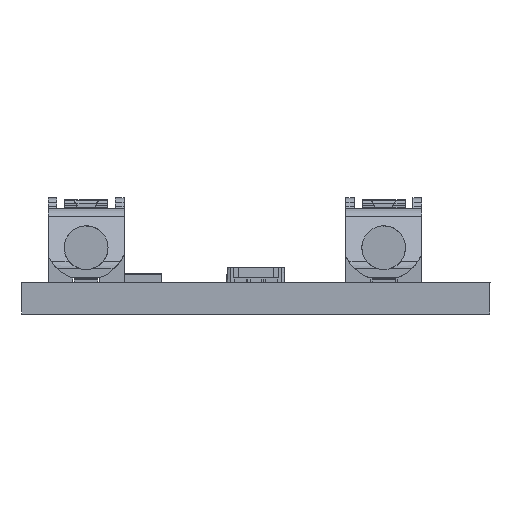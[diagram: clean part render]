
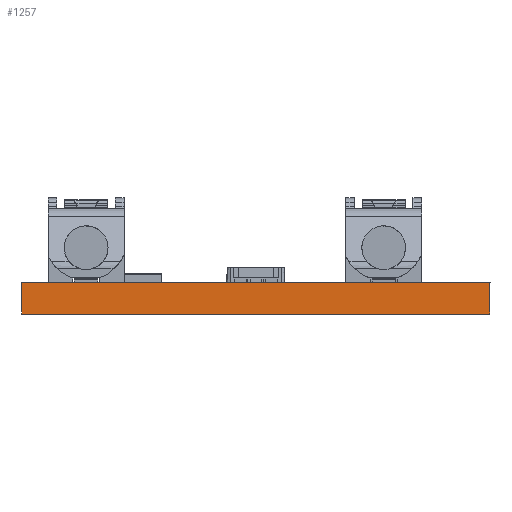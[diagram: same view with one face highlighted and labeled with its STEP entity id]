
A CAD part, left-side view. The second image highlights one B-rep face of the part: STEP entity #1257.
In plain terms, the highlighted planar face has unit normal (-1, 0, 0).
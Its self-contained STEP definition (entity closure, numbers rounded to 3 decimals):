
#132 = EDGE_LOOP ( 'NONE', ( #10253, #3526, #10152, #174 ) ) ;
#174 = ORIENTED_EDGE ( 'NONE', *, *, #8338, .T. ) ;
#559 = FACE_OUTER_BOUND ( 'NONE', #132, .T. ) ;
#592 = CARTESIAN_POINT ( 'NONE',  ( 0., 0., 0. ) ) ;
#795 = VECTOR ( 'NONE', #3783, 1000. ) ;
#1196 = VERTEX_POINT ( 'NONE', #1562 ) ;
#1257 = ADVANCED_FACE ( 'NONE', ( #559 ), #10656, .F. ) ;
#1438 = CARTESIAN_POINT ( 'NONE',  ( 0., 24., 1.6 ) ) ;
#1562 = CARTESIAN_POINT ( 'NONE',  ( 0., 0., 0. ) ) ;
#3081 = CARTESIAN_POINT ( 'NONE',  ( 0., 0., 1.6 ) ) ;
#3353 = CARTESIAN_POINT ( 'NONE',  ( 0., 0., 1.6 ) ) ;
#3441 = DIRECTION ( 'NONE',  ( 1., 0., 0. ) ) ;
#3526 = ORIENTED_EDGE ( 'NONE', *, *, #11087, .F. ) ;
#3701 = CARTESIAN_POINT ( 'NONE',  ( 0., 24., 0. ) ) ;
#3783 = DIRECTION ( 'NONE',  ( 0., 0., -1. ) ) ;
#4709 = VERTEX_POINT ( 'NONE', #3701 ) ;
#5328 = VERTEX_POINT ( 'NONE', #6912 ) ;
#5501 = VECTOR ( 'NONE', #8667, 1000. ) ;
#5587 = LINE ( 'NONE', #10134, #795 ) ;
#6101 = DIRECTION ( 'NONE',  ( 0., -1., 0. ) ) ;
#6711 = VECTOR ( 'NONE', #6898, 1000. ) ;
#6898 = DIRECTION ( 'NONE',  ( 0., -1., 0. ) ) ;
#6912 = CARTESIAN_POINT ( 'NONE',  ( 0., 24., 1.6 ) ) ;
#7017 = CARTESIAN_POINT ( 'NONE',  ( 0., 0., 1.6 ) ) ;
#7176 = VERTEX_POINT ( 'NONE', #3081 ) ;
#7456 = LINE ( 'NONE', #3353, #9601 ) ;
#7520 = AXIS2_PLACEMENT_3D ( 'NONE', #7017, #3441, #9774 ) ;
#8196 = LINE ( 'NONE', #1438, #5501 ) ;
#8338 = EDGE_CURVE ( 'NONE', #5328, #4709, #8196, .T. ) ;
#8667 = DIRECTION ( 'NONE',  ( 0., 0., -1. ) ) ;
#9601 = VECTOR ( 'NONE', #6101, 1000. ) ;
#9774 = DIRECTION ( 'NONE',  ( 0., 0., -1. ) ) ;
#10024 = EDGE_CURVE ( 'NONE', #5328, #7176, #7456, .T. ) ;
#10134 = CARTESIAN_POINT ( 'NONE',  ( 0., 0., 1.6 ) ) ;
#10152 = ORIENTED_EDGE ( 'NONE', *, *, #10024, .F. ) ;
#10253 = ORIENTED_EDGE ( 'NONE', *, *, #11535, .T. ) ;
#10656 = PLANE ( 'NONE',  #7520 ) ;
#11087 = EDGE_CURVE ( 'NONE', #7176, #1196, #5587, .T. ) ;
#11535 = EDGE_CURVE ( 'NONE', #4709, #1196, #11556, .T. ) ;
#11556 = LINE ( 'NONE', #592, #6711 ) ;
